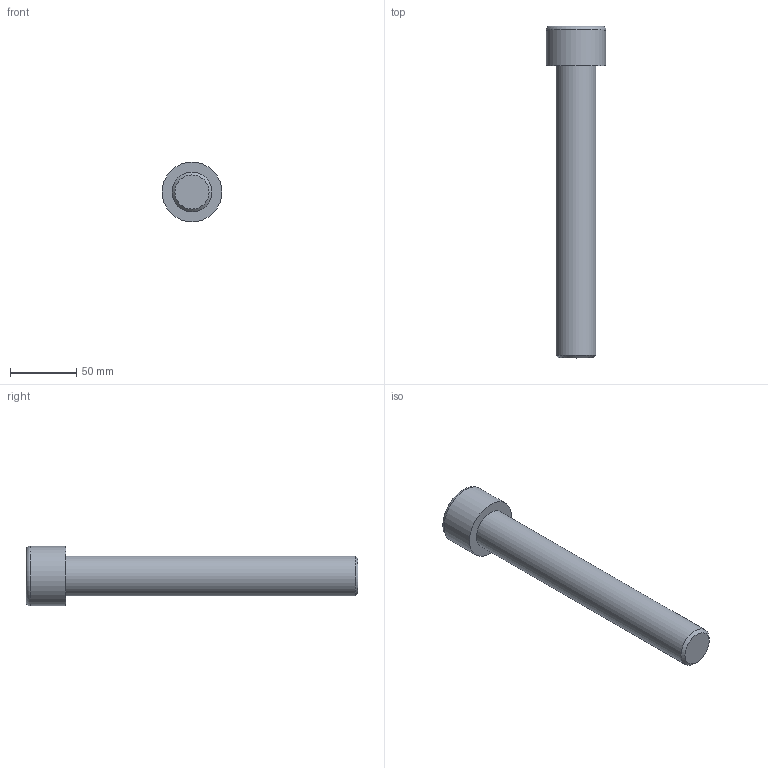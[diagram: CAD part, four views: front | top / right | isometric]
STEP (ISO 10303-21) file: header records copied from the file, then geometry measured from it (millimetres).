
FILE_DESCRIPTION(/* description */ (''),/* implementation_level */ '2;1');
FILE_NAME(/* name */ 'C:\Users\D\Documents\Inventor\各種小物\JIS\JIS B 1176 六角穴付きボルト\M30x220.stp',/* time_stamp */ '2022-05-09T19:01:42+09:00',/* author */ ('D'),/* organization */ (''),/* preprocessor_version */ 'ST-DEVELOPER v18',/* originating_system */ 'Autodesk Inventor 2020',/* authorisation */ '');
FILE_SCHEMA (('AUTOMOTIVE_DESIGN { 1 0 10303 214 3 1 1 }'));
Length unit declared in the file: millimetre
Products named in the file (1): M1.6x2.5
Bounding box: 45 x 250 x 45 mm (x, y, z)
Volume: 195047.5 mm3; surface area: 29141.1 mm2
Topology: 1 solids, 1 shells, 14 faces, 33 edges, 22 vertices
Faces by surface type: plane 9, cone 2, cylinder 2, torus 1
Full cylindrical faces by diameter (mm): 30 x1, 45 x1
Entity records: 435 total; most frequent: CARTESIAN_POINT 83, ORIENTED_EDGE 64, DIRECTION 64, EDGE_CURVE 32, AXIS2_PLACEMENT_3D 24, VERTEX_POINT 22, EDGE_LOOP 16, LINE 16
